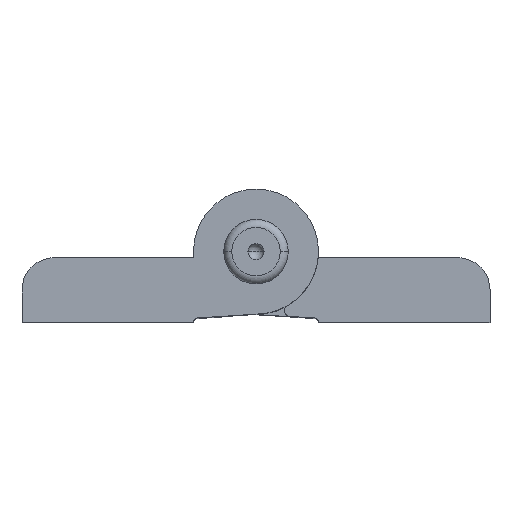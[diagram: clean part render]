
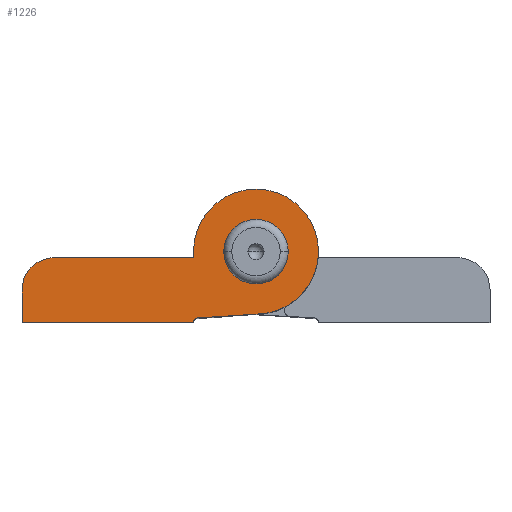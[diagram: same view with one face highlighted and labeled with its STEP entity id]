
A CAD part, top view. The second image highlights one B-rep face of the part: STEP entity #1226.
In plain terms, the highlighted planar face has unit normal (0, 0, 1).
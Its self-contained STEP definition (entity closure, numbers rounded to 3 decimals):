
#10 = AXIS2_PLACEMENT_3D ( 'NONE', #2704, #2391, #2084 ) ;
#30 = CARTESIAN_POINT ( 'NONE',  ( 0., 0., 22.25 ) ) ;
#41 = ORIENTED_EDGE ( 'NONE', *, *, #358, .T. ) ;
#74 = CARTESIAN_POINT ( 'NONE',  ( -7.282, -8.22, 22.25 ) ) ;
#93 = DIRECTION ( 'NONE',  ( 1., 0., 0. ) ) ;
#99 = ORIENTED_EDGE ( 'NONE', *, *, #3034, .T. ) ;
#109 = CARTESIAN_POINT ( 'NONE',  ( -7.75, -8.75, 22.25 ) ) ;
#142 = ORIENTED_EDGE ( 'NONE', *, *, #1202, .T. ) ;
#179 = CARTESIAN_POINT ( 'NONE',  ( -29., -8.75, 22.25 ) ) ;
#195 = CARTESIAN_POINT ( 'NONE',  ( -7.25, -8.719, 22.25 ) ) ;
#233 = LINE ( 'NONE', #3020, #2974 ) ;
#240 = VERTEX_POINT ( 'NONE', #1934 ) ;
#262 = ORIENTED_EDGE ( 'NONE', *, *, #313, .T. ) ;
#302 = DIRECTION ( 'NONE',  ( 0., 1., 0. ) ) ;
#313 = EDGE_CURVE ( 'NONE', #2703, #2836, #3102, .T. ) ;
#318 = CARTESIAN_POINT ( 'NONE',  ( -29., -8.75, 22.25 ) ) ;
#324 = VERTEX_POINT ( 'NONE', #2480 ) ;
#350 = ORIENTED_EDGE ( 'NONE', *, *, #1919, .F. ) ;
#351 = CARTESIAN_POINT ( 'NONE',  ( -25., -4.75, 22.25 ) ) ;
#358 = EDGE_CURVE ( 'NONE', #240, #2703, #1641, .T. ) ;
#387 = AXIS2_PLACEMENT_3D ( 'NONE', #2921, #1027, #707 ) ;
#401 = DIRECTION ( 'NONE',  ( 0., 0., 1. ) ) ;
#411 = LINE ( 'NONE', #109, #1264 ) ;
#523 = ORIENTED_EDGE ( 'NONE', *, *, #2458, .T. ) ;
#562 = DIRECTION ( 'NONE',  ( 1., 0., 0. ) ) ;
#589 = CARTESIAN_POINT ( 'NONE',  ( -4., 0., 22.25 ) ) ;
#590 = CIRCLE ( 'NONE', #387, 7.75 ) ;
#639 = CARTESIAN_POINT ( 'NONE',  ( -7.75, -8.75, 22.25 ) ) ;
#654 = DIRECTION ( 'NONE',  ( 0., -1., 0. ) ) ;
#707 = DIRECTION ( 'NONE',  ( 1., 0., 0. ) ) ;
#731 = CARTESIAN_POINT ( 'NONE',  ( 0., 0., 22.25 ) ) ;
#863 = CARTESIAN_POINT ( 'NONE',  ( -29., -4.75, 22.25 ) ) ;
#878 = DIRECTION ( 'NONE',  ( 0., 0., 1. ) ) ;
#889 = DIRECTION ( 'NONE',  ( 0., 0., 1. ) ) ;
#944 = VERTEX_POINT ( 'NONE', #2961 ) ;
#949 = LINE ( 'NONE', #639, #1288 ) ;
#1027 = DIRECTION ( 'NONE',  ( 0., 0., 1. ) ) ;
#1142 = DIRECTION ( 'NONE',  ( 1., 0., 0. ) ) ;
#1152 = VERTEX_POINT ( 'NONE', #1422 ) ;
#1172 = VERTEX_POINT ( 'NONE', #1741 ) ;
#1188 = EDGE_CURVE ( 'NONE', #1172, #944, #590, .T. ) ;
#1202 = EDGE_CURVE ( 'NONE', #1290, #1484, #949, .T. ) ;
#1203 = CARTESIAN_POINT ( 'NONE',  ( 0., 0., 22.25 ) ) ;
#1226 = ADVANCED_FACE ( 'NONE', ( #2023, #2879 ), #3014, .T. ) ;
#1240 = CIRCLE ( 'NONE', #2127, 7.75 ) ;
#1264 = VECTOR ( 'NONE', #2888, 1000. ) ;
#1288 = VECTOR ( 'NONE', #302, 1000. ) ;
#1290 = VERTEX_POINT ( 'NONE', #2309 ) ;
#1306 = CIRCLE ( 'NONE', #1575, 7.75 ) ;
#1327 = VERTEX_POINT ( 'NONE', #74 ) ;
#1382 = EDGE_CURVE ( 'NONE', #2085, #3008, #2299, .T. ) ;
#1393 = EDGE_CURVE ( 'NONE', #944, #240, #233, .T. ) ;
#1422 = CARTESIAN_POINT ( 'NONE',  ( 7.75, 0., 22.25 ) ) ;
#1460 = EDGE_LOOP ( 'NONE', ( #2851, #350 ) ) ;
#1464 = DIRECTION ( 'NONE',  ( 0., 0., 1. ) ) ;
#1484 = VERTEX_POINT ( 'NONE', #1710 ) ;
#1497 = EDGE_CURVE ( 'NONE', #2836, #1290, #411, .T. ) ;
#1575 = AXIS2_PLACEMENT_3D ( 'NONE', #731, #401, #93 ) ;
#1641 = CIRCLE ( 'NONE', #2227, 4. ) ;
#1710 = CARTESIAN_POINT ( 'NONE',  ( -7.75, -8.719, 22.25 ) ) ;
#1741 = CARTESIAN_POINT ( 'NONE',  ( -7.75, 0., 22.25 ) ) ;
#1749 = DIRECTION ( 'NONE',  ( 0.998, 0.064, 0. ) ) ;
#1789 = VECTOR ( 'NONE', #1749, 1000. ) ;
#1822 = ORIENTED_EDGE ( 'NONE', *, *, #1393, .T. ) ;
#1919 = EDGE_CURVE ( 'NONE', #3008, #2085, #2807, .T. ) ;
#1934 = CARTESIAN_POINT ( 'NONE',  ( -25., -0.75, 22.25 ) ) ;
#2017 = ORIENTED_EDGE ( 'NONE', *, *, #2632, .T. ) ;
#2023 = FACE_OUTER_BOUND ( 'NONE', #2551, .T. ) ;
#2065 = ORIENTED_EDGE ( 'NONE', *, *, #2601, .T. ) ;
#2071 = CARTESIAN_POINT ( 'NONE',  ( -7.75, -8.25, 22.25 ) ) ;
#2084 = DIRECTION ( 'NONE',  ( 1., 0., 0. ) ) ;
#2085 = VERTEX_POINT ( 'NONE', #589 ) ;
#2101 = CARTESIAN_POINT ( 'NONE',  ( 0., 0., 22.25 ) ) ;
#2127 = AXIS2_PLACEMENT_3D ( 'NONE', #30, #2825, #2512 ) ;
#2141 = CARTESIAN_POINT ( 'NONE',  ( 4., 0., 22.25 ) ) ;
#2227 = AXIS2_PLACEMENT_3D ( 'NONE', #351, #889, #2317 ) ;
#2251 = ORIENTED_EDGE ( 'NONE', *, *, #1188, .T. ) ;
#2299 = CIRCLE ( 'NONE', #2580, 4. ) ;
#2303 = VECTOR ( 'NONE', #654, 1000. ) ;
#2309 = CARTESIAN_POINT ( 'NONE',  ( -7.75, -8.75, 22.25 ) ) ;
#2317 = DIRECTION ( 'NONE',  ( 1., 0., 0. ) ) ;
#2355 = AXIS2_PLACEMENT_3D ( 'NONE', #195, #2669, #2357 ) ;
#2357 = DIRECTION ( 'NONE',  ( 1., 0., 0. ) ) ;
#2375 = LINE ( 'NONE', #2071, #1789 ) ;
#2391 = DIRECTION ( 'NONE',  ( 0., 0., 1. ) ) ;
#2458 = EDGE_CURVE ( 'NONE', #1152, #1172, #1306, .T. ) ;
#2478 = AXIS2_PLACEMENT_3D ( 'NONE', #2101, #1464, #1142 ) ;
#2480 = CARTESIAN_POINT ( 'NONE',  ( 0., -7.75, 22.25 ) ) ;
#2512 = DIRECTION ( 'NONE',  ( 1., 0., 0. ) ) ;
#2551 = EDGE_LOOP ( 'NONE', ( #1822, #41, #262, #2923, #142, #2017, #99, #2065, #523, #2251 ) ) ;
#2580 = AXIS2_PLACEMENT_3D ( 'NONE', #1203, #878, #562 ) ;
#2601 = EDGE_CURVE ( 'NONE', #324, #1152, #1240, .T. ) ;
#2632 = EDGE_CURVE ( 'NONE', #1484, #1327, #2907, .T. ) ;
#2669 = DIRECTION ( 'NONE',  ( 0., 0., -1. ) ) ;
#2703 = VERTEX_POINT ( 'NONE', #863 ) ;
#2704 = CARTESIAN_POINT ( 'NONE',  ( 0., 0., 22.25 ) ) ;
#2713 = DIRECTION ( 'NONE',  ( -1., 0., 0. ) ) ;
#2807 = CIRCLE ( 'NONE', #2478, 4. ) ;
#2825 = DIRECTION ( 'NONE',  ( 0., 0., 1. ) ) ;
#2836 = VERTEX_POINT ( 'NONE', #179 ) ;
#2851 = ORIENTED_EDGE ( 'NONE', *, *, #1382, .F. ) ;
#2879 = FACE_BOUND ( 'NONE', #1460, .T. ) ;
#2888 = DIRECTION ( 'NONE',  ( 1., 0., 0. ) ) ;
#2907 = CIRCLE ( 'NONE', #2355, 0.5 ) ;
#2921 = CARTESIAN_POINT ( 'NONE',  ( 0., 0., 22.25 ) ) ;
#2923 = ORIENTED_EDGE ( 'NONE', *, *, #1497, .T. ) ;
#2961 = CARTESIAN_POINT ( 'NONE',  ( -7.714, -0.75, 22.25 ) ) ;
#2974 = VECTOR ( 'NONE', #2713, 1000. ) ;
#3008 = VERTEX_POINT ( 'NONE', #2141 ) ;
#3014 = PLANE ( 'NONE',  #10 ) ;
#3020 = CARTESIAN_POINT ( 'NONE',  ( -29., -0.75, 22.25 ) ) ;
#3034 = EDGE_CURVE ( 'NONE', #1327, #324, #2375, .T. ) ;
#3102 = LINE ( 'NONE', #318, #2303 ) ;
